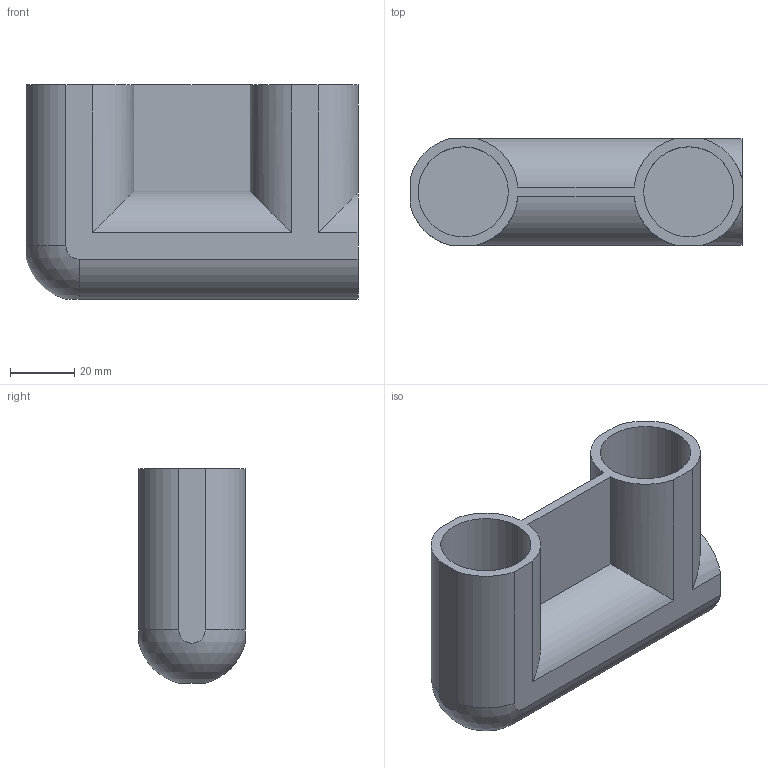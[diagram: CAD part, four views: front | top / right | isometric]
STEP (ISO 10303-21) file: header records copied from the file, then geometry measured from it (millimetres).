
FILE_DESCRIPTION (( 'STEP AP214' ), '1' );
FILE_NAME ('PJ-602.STEP', '2023-09-12T11:20:25', ( 'catia' ), ( 'HP Inc.' ), 'SwSTEP 2.0', 'SolidWorks 2021', '' );
FILE_SCHEMA (( 'AUTOMOTIVE_DESIGN' ));
Length unit declared in the file: millimetre
Products named in the file (1): PJ-602
Bounding box: 103 x 33 x 66.5 mm (x, y, z)
Volume: 78710.8 mm3; surface area: 33381.4 mm2
Topology: 1 solids, 1 shells, 32 faces, 81 edges, 54 vertices
Faces by surface type: cylinder 20, plane 11, sphere 1
Entity records: 1011 total; most frequent: CARTESIAN_POINT 186, DIRECTION 173, ORIENTED_EDGE 162, EDGE_CURVE 81, AXIS2_PLACEMENT_3D 65, VERTEX_POINT 54, LINE 43, VECTOR 43
